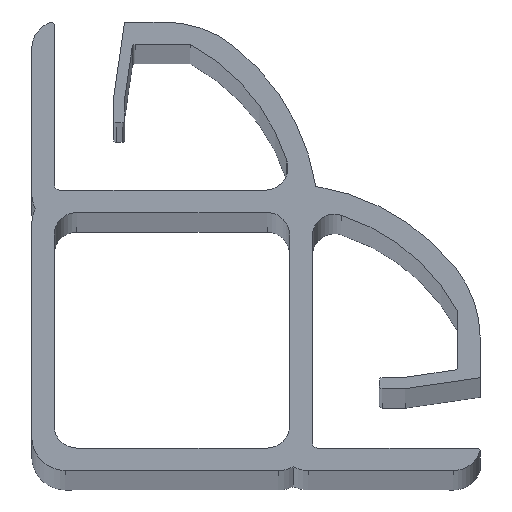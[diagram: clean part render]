
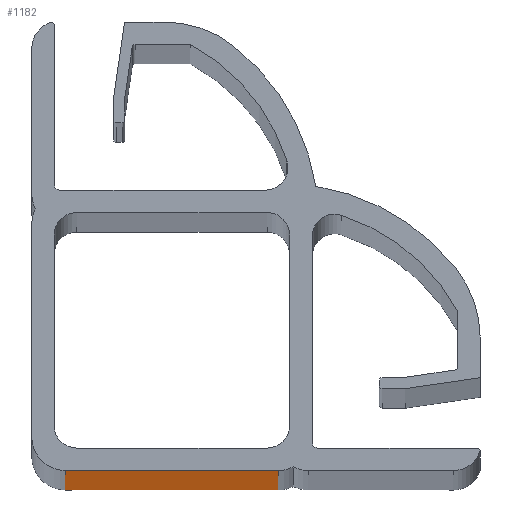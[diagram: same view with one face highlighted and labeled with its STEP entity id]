
A CAD part, top view. The second image highlights one B-rep face of the part: STEP entity #1182.
In plain terms, the highlighted planar face has unit normal (0, -1, 0).
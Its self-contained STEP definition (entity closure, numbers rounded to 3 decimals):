
#43 = PLANE ( 'NONE',  #210 ) ;
#126 = CARTESIAN_POINT ( 'NONE',  ( 9.5, -12.5, -500. ) ) ;
#143 = EDGE_CURVE ( 'NONE', #1687, #1642, #1324, .T. ) ;
#152 = CARTESIAN_POINT ( 'NONE',  ( -9.5, -12.5, -500. ) ) ;
#210 = AXIS2_PLACEMENT_3D ( 'NONE', #768, #1372, #1819 ) ;
#221 = ORIENTED_EDGE ( 'NONE', *, *, #1702, .F. ) ;
#322 = CARTESIAN_POINT ( 'NONE',  ( -12.5, -12.5, -500. ) ) ;
#333 = VECTOR ( 'NONE', #1063, 1000. ) ;
#408 = DIRECTION ( 'NONE',  ( 0., 0., -1. ) ) ;
#492 = DIRECTION ( 'NONE',  ( 1., 0., 0. ) ) ;
#540 = LINE ( 'NONE', #1037, #1323 ) ;
#733 = DIRECTION ( 'NONE',  ( 0., 0., 1. ) ) ;
#768 = CARTESIAN_POINT ( 'NONE',  ( -12.5, -12.5, -500. ) ) ;
#891 = EDGE_LOOP ( 'NONE', ( #1436, #1718, #221, #1786 ) ) ;
#900 = FACE_OUTER_BOUND ( 'NONE', #891, .T. ) ;
#1015 = EDGE_CURVE ( 'NONE', #1398, #1118, #540, .T. ) ;
#1037 = CARTESIAN_POINT ( 'NONE',  ( -9.5, -12.5, -500. ) ) ;
#1063 = DIRECTION ( 'NONE',  ( 1., 0., 0. ) ) ;
#1118 = VERTEX_POINT ( 'NONE', #152 ) ;
#1155 = EDGE_CURVE ( 'NONE', #1118, #1687, #1679, .T. ) ;
#1182 = ADVANCED_FACE ( 'NONE', ( #900 ), #43, .T. ) ;
#1323 = VECTOR ( 'NONE', #408, 1000. ) ;
#1324 = LINE ( 'NONE', #1754, #1696 ) ;
#1372 = DIRECTION ( 'NONE',  ( 0., -1., 0. ) ) ;
#1398 = VERTEX_POINT ( 'NONE', #1924 ) ;
#1436 = ORIENTED_EDGE ( 'NONE', *, *, #1155, .T. ) ;
#1642 = VERTEX_POINT ( 'NONE', #1664 ) ;
#1664 = CARTESIAN_POINT ( 'NONE',  ( 9.5, -12.5, 500. ) ) ;
#1679 = LINE ( 'NONE', #322, #333 ) ;
#1684 = LINE ( 'NONE', #1838, #1800 ) ;
#1687 = VERTEX_POINT ( 'NONE', #126 ) ;
#1696 = VECTOR ( 'NONE', #733, 1000. ) ;
#1702 = EDGE_CURVE ( 'NONE', #1398, #1642, #1684, .T. ) ;
#1718 = ORIENTED_EDGE ( 'NONE', *, *, #143, .T. ) ;
#1754 = CARTESIAN_POINT ( 'NONE',  ( 9.5, -12.5, -502.668 ) ) ;
#1786 = ORIENTED_EDGE ( 'NONE', *, *, #1015, .T. ) ;
#1800 = VECTOR ( 'NONE', #492, 1000. ) ;
#1819 = DIRECTION ( 'NONE',  ( 0., 0., -1. ) ) ;
#1838 = CARTESIAN_POINT ( 'NONE',  ( -12.5, -12.5, 500. ) ) ;
#1924 = CARTESIAN_POINT ( 'NONE',  ( -9.5, -12.5, 500. ) ) ;
